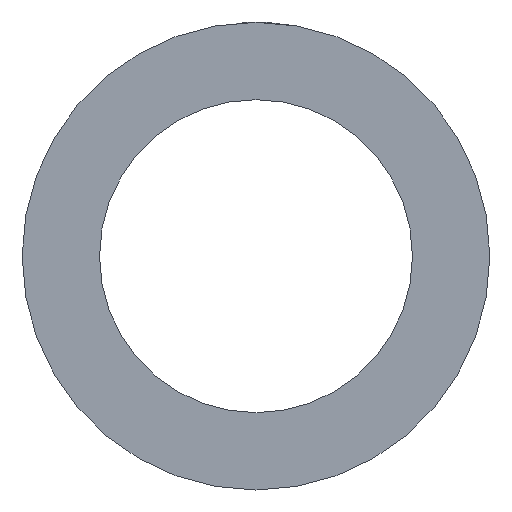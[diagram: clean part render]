
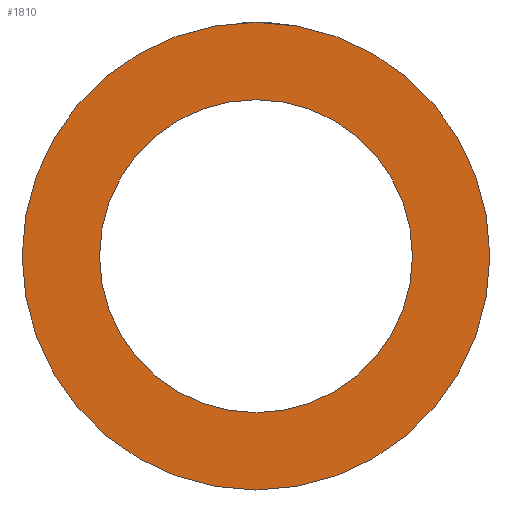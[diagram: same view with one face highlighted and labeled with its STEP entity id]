
A CAD part, left-side view. The second image highlights one B-rep face of the part: STEP entity #1810.
In plain terms, the highlighted planar face has unit normal (-1, 0, 0).
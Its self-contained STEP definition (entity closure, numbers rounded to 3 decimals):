
#31 = FACE_OUTER_BOUND ( 'NONE', #2814, .T. ) ;
#101 = FACE_BOUND ( 'NONE', #3233, .T. ) ;
#194 = AXIS2_PLACEMENT_3D ( 'NONE', #2781, #2623, #2754 ) ;
#212 = AXIS2_PLACEMENT_3D ( 'NONE', #2820, #2810, #2807 ) ;
#390 = EDGE_CURVE ( 'NONE', #817, #780, #3137, .T. ) ;
#406 = EDGE_CURVE ( 'NONE', #2897, #2556, #2988, .T. ) ;
#413 = CIRCLE ( 'NONE', #2107, 229.2 ) ;
#780 = VERTEX_POINT ( 'NONE', #2154 ) ;
#817 = VERTEX_POINT ( 'NONE', #3076 ) ;
#849 = CARTESIAN_POINT ( 'NONE',  ( 0., 0., -342.5 ) ) ;
#1156 = AXIS2_PLACEMENT_3D ( 'NONE', #3176, #3166, #3158 ) ;
#1241 = CARTESIAN_POINT ( 'NONE',  ( 0., 0., 342.5 ) ) ;
#1258 = DIRECTION ( 'NONE',  ( 0., 0., -1. ) ) ;
#1269 = AXIS2_PLACEMENT_3D ( 'NONE', #1288, #1275, #1258 ) ;
#1275 = DIRECTION ( 'NONE',  ( 1., 0., 0. ) ) ;
#1288 = CARTESIAN_POINT ( 'NONE',  ( 0., 229.2, 0. ) ) ;
#1413 = PLANE ( 'NONE',  #1269 ) ;
#1479 = EDGE_CURVE ( 'NONE', #780, #817, #413, .T. ) ;
#1810 = ADVANCED_FACE ( 'NONE', ( #101, #31 ), #1413, .F. ) ;
#1887 = ORIENTED_EDGE ( 'NONE', *, *, #1479, .F. ) ;
#1931 = DIRECTION ( 'NONE',  ( 0., 0., 1. ) ) ;
#1936 = DIRECTION ( 'NONE',  ( -1., 0., 0. ) ) ;
#1941 = CARTESIAN_POINT ( 'NONE',  ( 0., 0., 0. ) ) ;
#1944 = ORIENTED_EDGE ( 'NONE', *, *, #1972, .T. ) ;
#1972 = EDGE_CURVE ( 'NONE', #2556, #2897, #2956, .T. ) ;
#2107 = AXIS2_PLACEMENT_3D ( 'NONE', #1941, #1936, #1931 ) ;
#2154 = CARTESIAN_POINT ( 'NONE',  ( 0., 0., -229.2 ) ) ;
#2552 = ORIENTED_EDGE ( 'NONE', *, *, #406, .T. ) ;
#2556 = VERTEX_POINT ( 'NONE', #1241 ) ;
#2623 = DIRECTION ( 'NONE',  ( -1., 0., 0. ) ) ;
#2754 = DIRECTION ( 'NONE',  ( 0., 0., 1. ) ) ;
#2781 = CARTESIAN_POINT ( 'NONE',  ( 0., 0., 0. ) ) ;
#2783 = ORIENTED_EDGE ( 'NONE', *, *, #390, .F. ) ;
#2807 = DIRECTION ( 'NONE',  ( 0., 0., 1. ) ) ;
#2810 = DIRECTION ( 'NONE',  ( -1., 0., 0. ) ) ;
#2814 = EDGE_LOOP ( 'NONE', ( #1944, #2552 ) ) ;
#2820 = CARTESIAN_POINT ( 'NONE',  ( 0., 0., 0. ) ) ;
#2897 = VERTEX_POINT ( 'NONE', #849 ) ;
#2956 = CIRCLE ( 'NONE', #1156, 342.5 ) ;
#2988 = CIRCLE ( 'NONE', #194, 342.5 ) ;
#3076 = CARTESIAN_POINT ( 'NONE',  ( 0., 0., 229.2 ) ) ;
#3137 = CIRCLE ( 'NONE', #212, 229.2 ) ;
#3158 = DIRECTION ( 'NONE',  ( 0., 0., 1. ) ) ;
#3166 = DIRECTION ( 'NONE',  ( -1., 0., 0. ) ) ;
#3176 = CARTESIAN_POINT ( 'NONE',  ( 0., 0., 0. ) ) ;
#3233 = EDGE_LOOP ( 'NONE', ( #2783, #1887 ) ) ;
